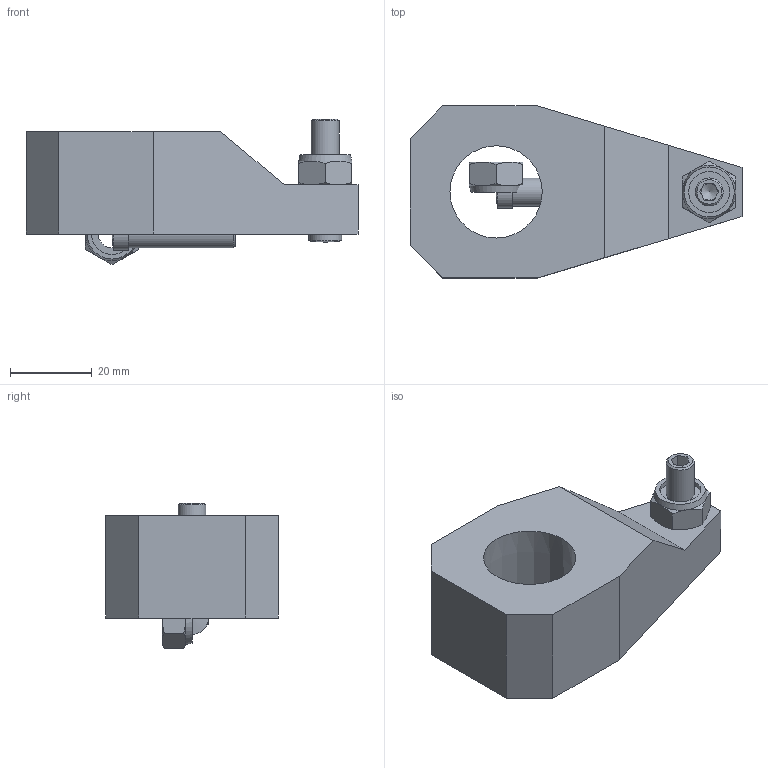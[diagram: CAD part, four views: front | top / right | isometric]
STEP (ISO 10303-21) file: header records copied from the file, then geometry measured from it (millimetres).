
FILE_DESCRIPTION( ( '' ), '1' );
FILE_NAME( 'W:/Catalogue/JF6H/JF6H42_ClampArm/JF6H42_ClampArm.stp', '2008-05-26T00:59:45', ( '機械事業部産業機器グループ' ), ( '豊和工業株式会社' ), 'XStep 1.0', ' ', ' ' );
FILE_SCHEMA( ( 'CONFIG_CONTROL_DESIGN' ) );
Length unit declared in the file: millimetre
Products named in the file (4): Assem1; 1; 2; 3
Bounding box: 81 x 42 x 35.5 mm (x, y, z)
Volume: 96408.6 mm3; surface area: 24823.2 mm2
Topology: 6 solids, 6 shells, 132 faces, 310 edges, 194 vertices
Faces by surface type: plane 72, cone 32, cylinder 26, sphere 2
Full cylindrical faces by diameter (mm): 4 x2, 6.8 x6, 8 x2, 8.5 x2, 10 x2
Entity records: 2048 total; most frequent: CARTESIAN_POINT 435, DIRECTION 300, ORIENTED_EDGE 274, EDGE_CURVE 137, AXIS2_PLACEMENT_3D 117, VERTEX_POINT 92, EDGE_LOOP 86, FACE_OUTER_BOUND 73
